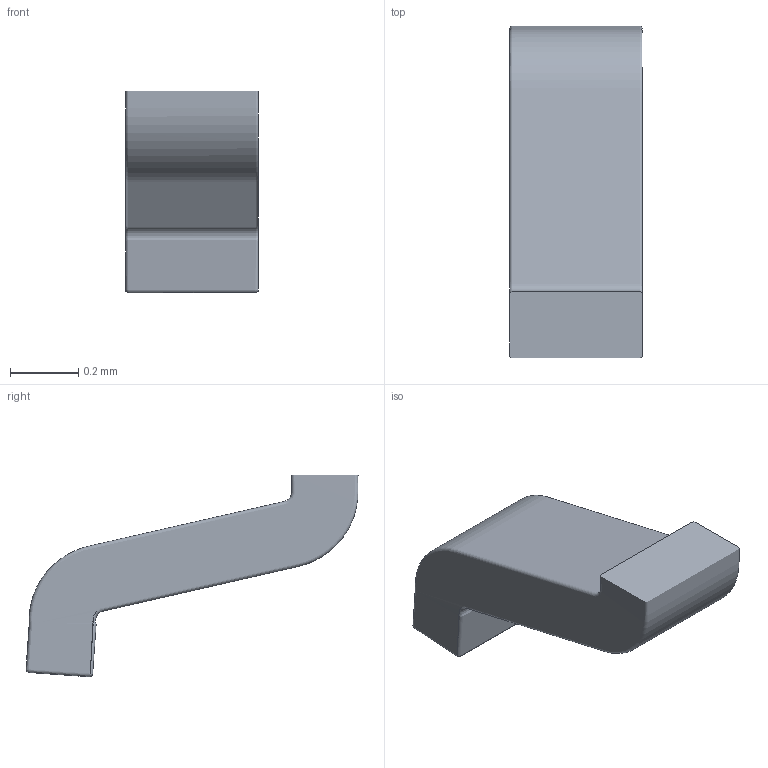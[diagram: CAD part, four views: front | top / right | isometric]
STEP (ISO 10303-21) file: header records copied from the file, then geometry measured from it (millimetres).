
FILE_DESCRIPTION(/* description */ ('STEP AP242 Edition 2','CAx-IF Rec.Pracs.---Representation and Presentation of Product Manufacturing Information (PMI)---4.0---2014-10-13','CAx-IF Rec.Pracs.---3D Tessellated Geometry---0.4---2014-09-14','2;1','CAx-IF Rec.Pracs.---User Defined Attributes---1.5---2016-08-15'),/* implementation_level */ '2;1');
FILE_NAME(/* name */ 'Assembly 1 - Part 41',/* time_stamp */ '2026-03-29T21:14:57Z',/* author */ (''),/* organization */ (''),/* preprocessor_version */ 'ST-DEVELOPER v20',/* originating_system */ 'ONSHAPE BY PTC INC, 1.212',/* authorisation */ ' ');
FILE_SCHEMA (('AP242_MANAGED_MODEL_BASED_3D_ENGINEERING_MIM_LF { 1 0 10303 442 3 1 4 }'));
Length unit declared in the file: metre
Products named in the file (1): Part 41
Bounding box: 0.39 x 0.98 x 0.59 mm (x, y, z)
Surface area: 1.5 mm2 (no closed solid volume)
Topology: 0 solids, 1 shells, 1 faces, 0 edges, 0 vertices
Faces by surface type: other 1
Entity records: 31 total; most frequent: DIRECTION 2, SHAPE_REPRESENTATION_RELATIONSHIP 1, TESSELLATED_SHAPE_REPRESENTATION 1, STYLED_ITEM 1, PRESENTATION_STYLE_ASSIGNMENT 1, SURFACE_STYLE_USAGE 1, SURFACE_SIDE_STYLE 1, SURFACE_STYLE_FILL_AREA 1
